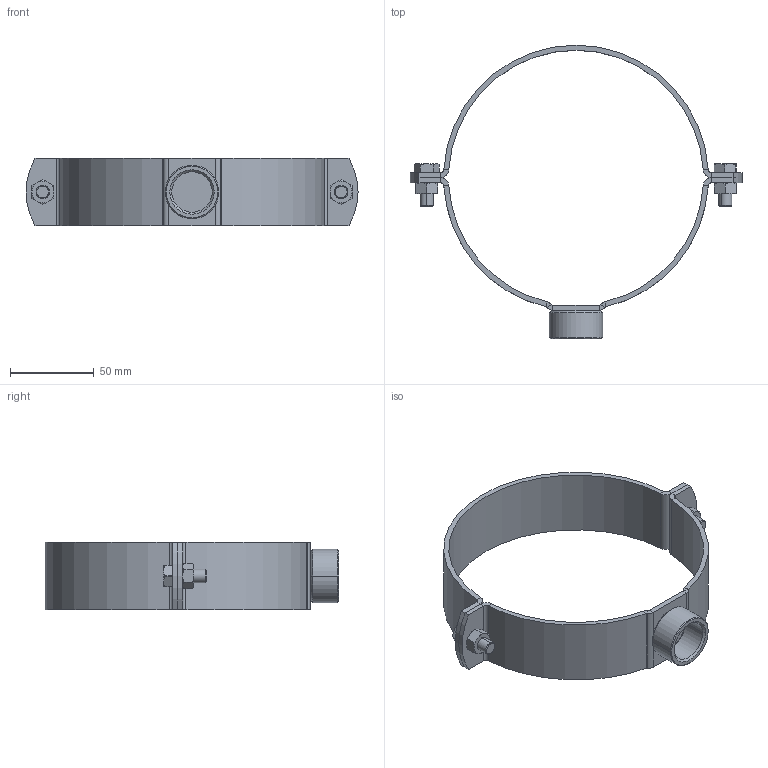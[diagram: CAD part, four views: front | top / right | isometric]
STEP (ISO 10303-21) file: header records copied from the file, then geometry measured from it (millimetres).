
FILE_DESCRIPTION (( 'STEP AP203' ), '1' );
FILE_NAME ('51.839.STEP', '2019-11-21T16:16:38', ( '' ), ( '' ), 'SwSTEP 2.0', 'SolidWorks 2019', '' );
FILE_SCHEMA (( 'CONFIG_CONTROL_DESIGN' ));
Length unit declared in the file: millimetre
Products named in the file (7): 1000003263_E-10254.002-Inox V4A (1.4404); 1000003381_10 - Gr. 153-156 - H-17111.610; 1000003366_10 - Gr. 153-156 - H-17109.010; 1000003484; 1000003486; 51.839; 1000003377_10 - Gr. 153-156 - H-17110.010
Assembly tree (8 placements, depth 3):
  51.839
    1000003381_10 - Gr. 153-156 - H-17111.610
      1000003377_10 - Gr. 153-156 - H-17110.010
      1000003263_E-10254.002-Inox V4A (1.4404)
    1000003366_10 - Gr. 153-156 - H-17109.010
    1000003484  x2
    1000003486  x2
Bounding box: 198 x 175 x 40 mm (x, y, z)
Volume: 76365 mm3; surface area: 54752.6 mm2
Topology: 7 solids, 7 shells, 214 faces, 462 edges, 264 vertices
Faces by surface type: plane 90, cylinder 62, cone 62
Entity records: 4974 total; most frequent: CARTESIAN_POINT 861, DIRECTION 757, ORIENTED_EDGE 650, EDGE_CURVE 325, AXIS2_PLACEMENT_3D 304, VERTEX_POINT 184, EDGE_LOOP 165, FACE_OUTER_BOUND 152
